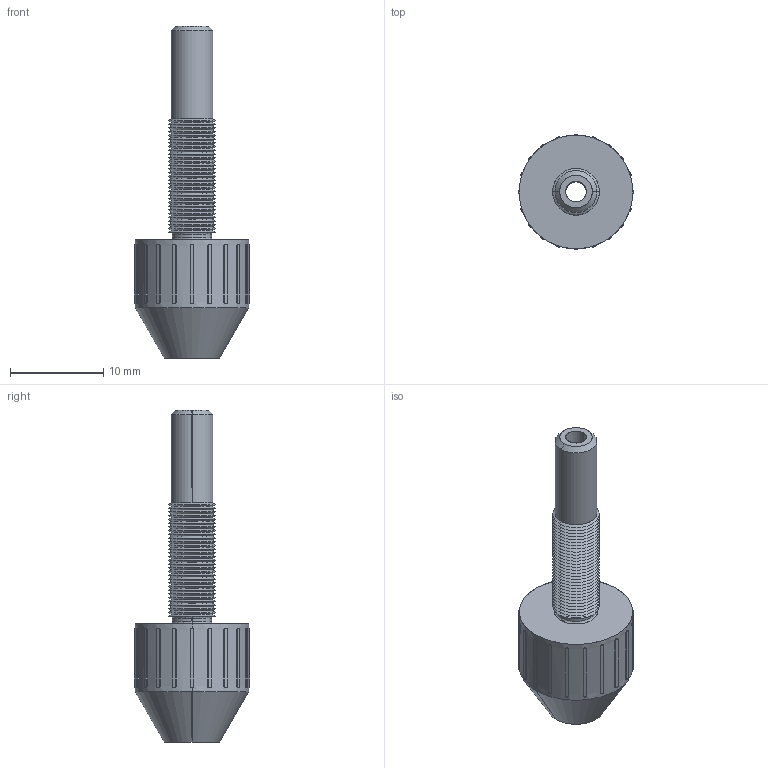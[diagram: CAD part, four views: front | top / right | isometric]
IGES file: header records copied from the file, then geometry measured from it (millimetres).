
Start section: SolidWorks IGES file using analytic representation for surfaces
Global section: file name: C:\Users\liam_\OneDrive\Documents\WORK\Work for WixRoyd\Job Files\J-00025 - Matt Davis CAD - 20191106\04. CAD Drawings\Wixroyd20191106\20056_v2\20056_v2_20191117_IGES\20056.W1150.igs; native system: SolidWorks 2017; preprocessor: SolidWorks 2017; author: liam_; date: 191117.214006; units: millimetre
Bounding box: 12.4 x 12.4 x 35.65 mm (x, y, z)
Surface area: 1379.9 mm2 (no closed solid volume)
Topology: 0 solids, 0 shells, 263 faces, 2096 edges, 2096 vertices
Faces by surface type: revolution 194, bspline 69
